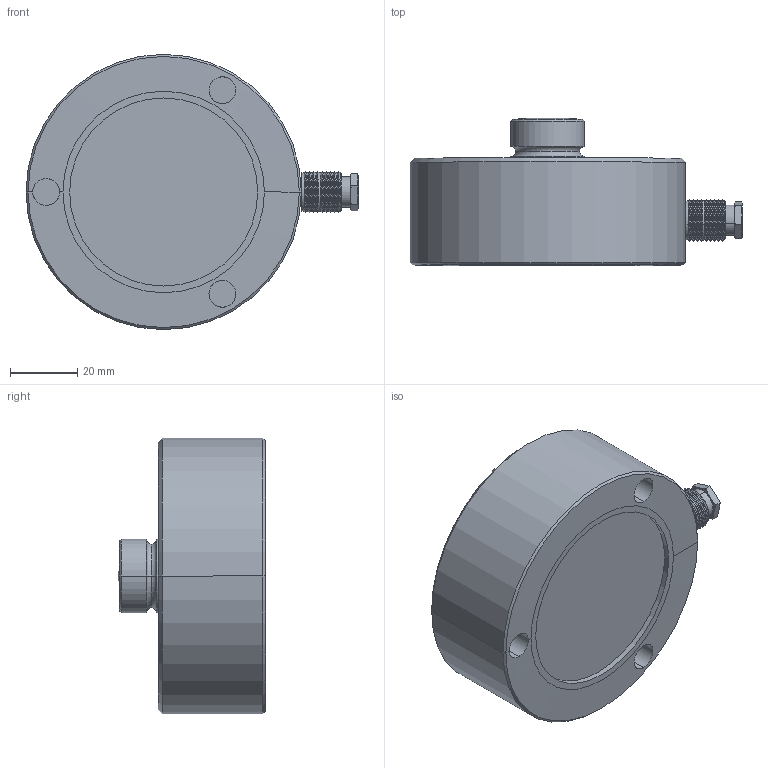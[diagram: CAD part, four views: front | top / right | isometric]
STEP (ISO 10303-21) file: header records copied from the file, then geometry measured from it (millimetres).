
FILE_DESCRIPTION((''),'1');
FILE_NAME('LKLC_1000-2500-5000-7500-10000-15000_kg.step','2024-11-20T10:58:32',(''),(''),'','','');
FILE_SCHEMA(('AUTOMOTIVE_DESIGN { 1 0 10303 214 1 1 1 1 }'));
Products named in the file (3): LKLC 1000-2500-5000-7500-10000-15000_kg; LKLC body 01; LKLC cable gland 01
Assembly tree (2 placements, depth 2):
  LKLC 1000-2500-5000-7500-10000-15000_kg
    LKLC body 01
    LKLC cable gland 01
Bounding box: 98.88 x 43.89 x 82 mm (x, y, z)
Volume: 167406.8 mm3; surface area: 22039.5 mm2
Topology: 2 solids, 2 shells, 142 faces, 288 edges, 159 vertices
Faces by surface type: cone 64, torus 36, cylinder 22, plane 19, sphere 1
Entity records: 4188 total; most frequent: CARTESIAN_POINT 1087, DIRECTION 721, ORIENTED_EDGE 576, AXIS2_PLACEMENT_3D 320, EDGE_CURVE 288, CIRCLE 175, VERTEX_POINT 159, EDGE_LOOP 151
